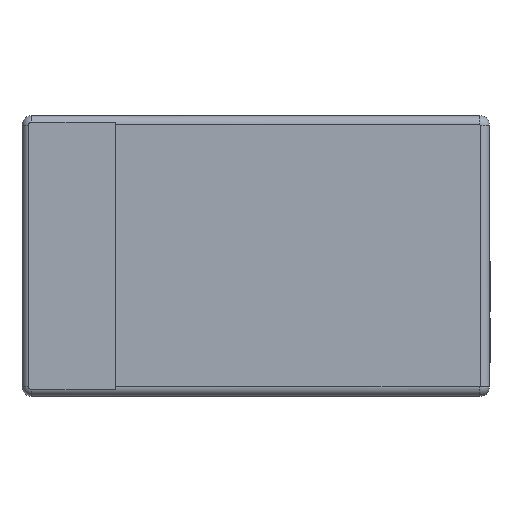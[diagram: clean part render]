
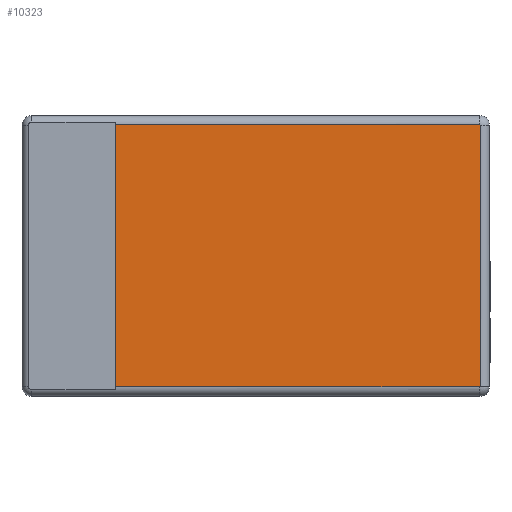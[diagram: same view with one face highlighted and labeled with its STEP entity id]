
A CAD part, top view. The second image highlights one B-rep face of the part: STEP entity #10323.
In plain terms, the highlighted planar face has unit normal (0, 0, 1).
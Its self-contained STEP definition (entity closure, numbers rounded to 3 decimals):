
#360 = CARTESIAN_POINT ( 'NONE',  ( -0.3, 0.28, 0.27 ) ) ;
#488 = AXIS2_PLACEMENT_3D ( 'NONE', #4679, #12840, #5864 ) ;
#564 = DIRECTION ( 'NONE',  ( 0., 0., -1. ) ) ;
#850 = DIRECTION ( 'NONE',  ( 0., -1., 0. ) ) ;
#1008 = ORIENTED_EDGE ( 'NONE', *, *, #14890, .T. ) ;
#1361 = CARTESIAN_POINT ( 'NONE',  ( 0.48, 0., 0.27 ) ) ;
#1388 = CARTESIAN_POINT ( 'NONE',  ( 0., 0.28, 0.27 ) ) ;
#1495 = EDGE_CURVE ( 'NONE', #2873, #12759, #9706, .T. ) ;
#1604 = ORIENTED_EDGE ( 'NONE', *, *, #5578, .T. ) ;
#1937 = ORIENTED_EDGE ( 'NONE', *, *, #1495, .T. ) ;
#2036 = LINE ( 'NONE', #11627, #8019 ) ;
#2572 = LINE ( 'NONE', #1388, #5343 ) ;
#2873 = VERTEX_POINT ( 'NONE', #14174 ) ;
#2919 = CARTESIAN_POINT ( 'NONE',  ( 0., -0.28, 0.27 ) ) ;
#3078 = LINE ( 'NONE', #2919, #8992 ) ;
#3481 = VERTEX_POINT ( 'NONE', #8962 ) ;
#3579 = ORIENTED_EDGE ( 'NONE', *, *, #12522, .T. ) ;
#4075 = PLANE ( 'NONE',  #4849 ) ;
#4679 = CARTESIAN_POINT ( 'NONE',  ( 0.479, 0.279, 0.27 ) ) ;
#4849 = AXIS2_PLACEMENT_3D ( 'NONE', #13529, #564, #8026 ) ;
#4977 = ORIENTED_EDGE ( 'NONE', *, *, #5892, .T. ) ;
#5245 = CIRCLE ( 'NONE', #488, 0.001 ) ;
#5343 = VECTOR ( 'NONE', #10996, 1000. ) ;
#5578 = EDGE_CURVE ( 'NONE', #9658, #8976, #2036, .T. ) ;
#5864 = DIRECTION ( 'NONE',  ( -1., 0., 0. ) ) ;
#5892 = EDGE_CURVE ( 'NONE', #12759, #3481, #5245, .T. ) ;
#6081 = DIRECTION ( 'NONE',  ( 0., 1., 0. ) ) ;
#8019 = VECTOR ( 'NONE', #850, 1000. ) ;
#8026 = DIRECTION ( 'NONE',  ( -1., 0., 0. ) ) ;
#8962 = CARTESIAN_POINT ( 'NONE',  ( 0.479, 0.28, 0.27 ) ) ;
#8976 = VERTEX_POINT ( 'NONE', #9306 ) ;
#8992 = VECTOR ( 'NONE', #15083, 1000. ) ;
#9306 = CARTESIAN_POINT ( 'NONE',  ( -0.3, -0.28, 0.27 ) ) ;
#9658 = VERTEX_POINT ( 'NONE', #360 ) ;
#9706 = LINE ( 'NONE', #1361, #14442 ) ;
#10019 = FACE_OUTER_BOUND ( 'NONE', #14656, .T. ) ;
#10323 = ADVANCED_FACE ( 'NONE', ( #10019 ), #4075, .F. ) ;
#10946 = CARTESIAN_POINT ( 'NONE',  ( 0.48, 0.279, 0.27 ) ) ;
#10996 = DIRECTION ( 'NONE',  ( -1., 0., 0. ) ) ;
#11627 = CARTESIAN_POINT ( 'NONE',  ( -0.3, 0., 0.27 ) ) ;
#12522 = EDGE_CURVE ( 'NONE', #8976, #2873, #3078, .T. ) ;
#12759 = VERTEX_POINT ( 'NONE', #10946 ) ;
#12840 = DIRECTION ( 'NONE',  ( 0., 0., 1. ) ) ;
#13529 = CARTESIAN_POINT ( 'NONE',  ( 0., 0., 0.27 ) ) ;
#14174 = CARTESIAN_POINT ( 'NONE',  ( 0.48, -0.279, 0.27 ) ) ;
#14442 = VECTOR ( 'NONE', #6081, 1000. ) ;
#14656 = EDGE_LOOP ( 'NONE', ( #1008, #1604, #3579, #1937, #4977 ) ) ;
#14890 = EDGE_CURVE ( 'NONE', #3481, #9658, #2572, .T. ) ;
#15083 = DIRECTION ( 'NONE',  ( 1., 0., 0. ) ) ;
